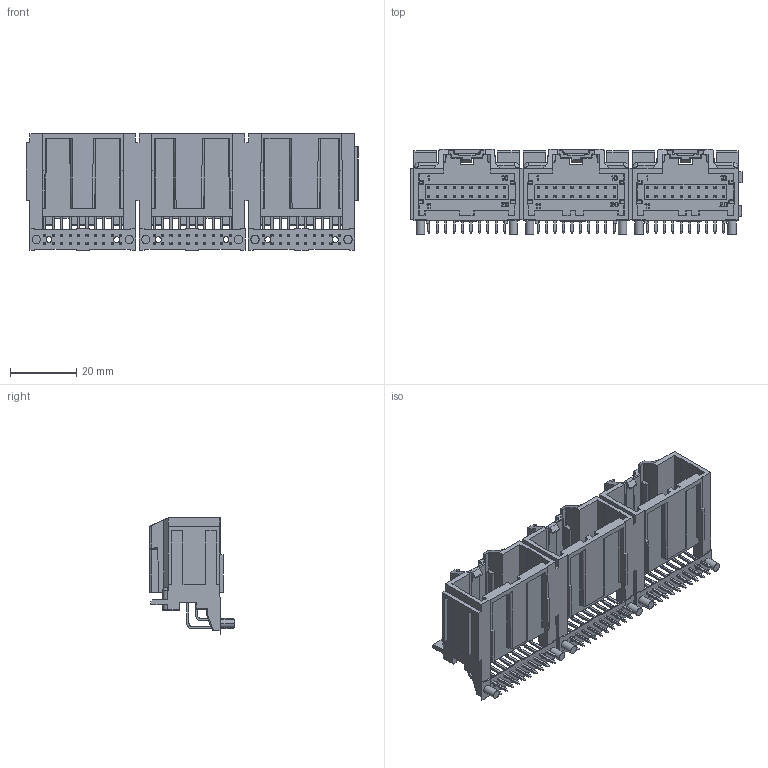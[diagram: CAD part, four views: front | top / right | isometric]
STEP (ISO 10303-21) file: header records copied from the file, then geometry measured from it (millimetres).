
FILE_DESCRIPTION((''),'2;1');
FILE_NAME('347083098','2013-12-30T',('me'),(''),'PRO/ENGINEER BY PARAMETRIC TECHNOLOGY CORPORATION, 2011490','PRO/ENGINEER BY PARAMETRIC TECHNOLOGY CORPORATION, 2011490','');
FILE_SCHEMA(('CONFIG_CONTROL_DESIGN'));
Products named in the file (1): 347083098
Bounding box: 99.9 x 25.56 x 35.16 mm (x, y, z)
Volume: 17669.4 mm3; surface area: 26021.3 mm2
Topology: 1 solids, 1 shells, 3352 faces, 9142 edges, 5941 vertices
Faces by surface type: plane 2818, cylinder 466, bspline 62, torus 6
Entity records: 113391 total; most frequent: CARTESIAN_POINT 29412, ORIENTED_EDGE 17972, DIRECTION 15799, EDGE_CURVE 8986, VECTOR 7933, LINE 7933, VERTEX_POINT 5785, AXIS2_PLACEMENT_3D 3933
